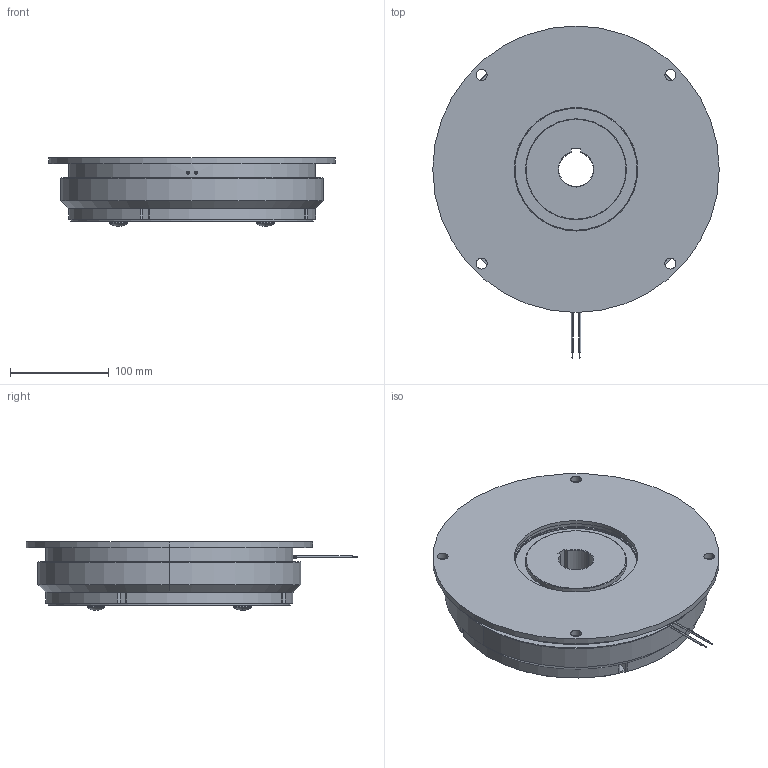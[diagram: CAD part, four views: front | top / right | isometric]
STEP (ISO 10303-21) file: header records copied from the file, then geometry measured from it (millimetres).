
FILE_DESCRIPTION (( 'STEP AP214' ), '1' );
FILE_NAME ('dr_bk_1203-110_mu.STEP', '2021-12-01T08:51:26', ( '' ), ( '' ), 'SwSTEP 2.0', 'SolidWorks 2019', '' );
FILE_SCHEMA (( 'AUTOMOTIVE_DESIGN' ));
Length unit declared in the file: millimetre
Products named in the file (8): 10068899_000; 10068900_000_Klemml„nge 9,5mm; 10068895_000; 10068894_000; dr_bk_1203-110_mu; 10068893_000; 10069135_000; 10069124_000
Assembly tree (13 placements, depth 3):
  dr_bk_1203-110_mu
    10069124_000
    10069135_000
    10068899_000
      10068893_000
      10068894_000
      10068900_000_Klemml„nge 9,5mm  x4
      10068895_000  x4
Bounding box: 290 x 336 x 69.5 mm (x, y, z)
Volume: 2979904.6 mm3; surface area: 458498 mm2
Topology: 14 solids, 14 shells, 321 faces, 752 edges, 458 vertices
Faces by surface type: cylinder 173, cone 68, plane 54, torus 26
Entity records: 9149 total; most frequent: DIRECTION 1438, CARTESIAN_POINT 1419, ORIENTED_EDGE 1176, AXIS2_PLACEMENT_3D 599, EDGE_CURVE 588, VERTEX_POINT 374, CIRCLE 336, EDGE_LOOP 312
